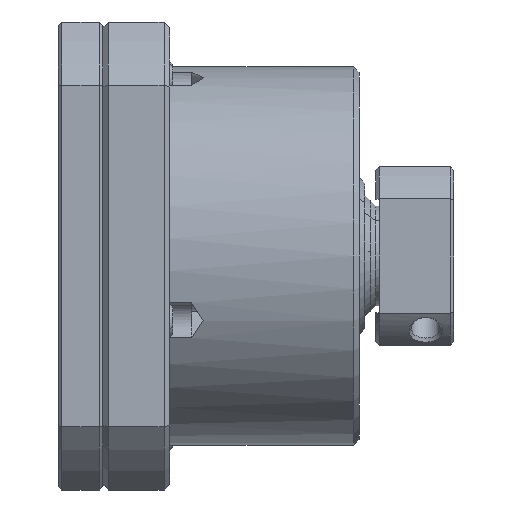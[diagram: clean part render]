
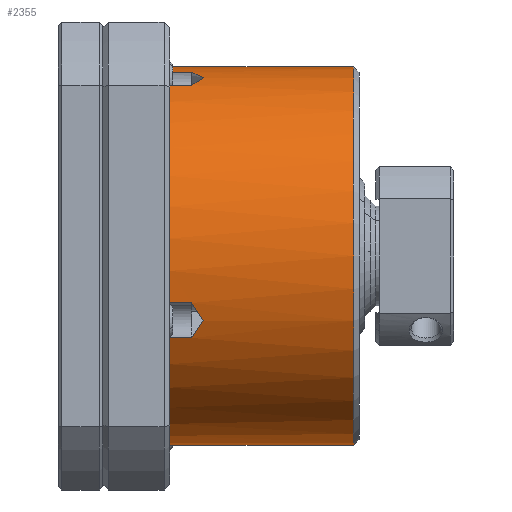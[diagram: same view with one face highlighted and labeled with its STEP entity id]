
A CAD part, front view. The second image highlights one B-rep face of the part: STEP entity #2355.
In plain terms, the highlighted cylindrical face has radius 17 mm (diameter 34 mm), a partial arc.
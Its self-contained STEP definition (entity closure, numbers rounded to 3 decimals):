
#154 = VERTEX_POINT ( 'NONE', #4869 ) ;
#188 = VECTOR ( 'NONE', #7120, 1000. ) ;
#787 = AXIS2_PLACEMENT_3D ( 'NONE', #7371, #6890, #2926 ) ;
#904 = DIRECTION ( 'NONE',  ( 1., 0., 0. ) ) ;
#906 = EDGE_CURVE ( 'NONE', #4085, #8130, #1960, .T. ) ;
#928 = CARTESIAN_POINT ( 'NONE',  ( 8., -7.358, 15.325 ) ) ;
#1058 = CARTESIAN_POINT ( 'NONE',  ( 6., -16.469, -4.214 ) ) ;
#1094 = CARTESIAN_POINT ( 'NONE',  ( 4., -16.469, -4.214 ) ) ;
#1107 = FACE_OUTER_BOUND ( 'NONE', #3990, .T. ) ;
#1199 = ORIENTED_EDGE ( 'NONE', *, *, #5737, .T. ) ;
#1313 = CARTESIAN_POINT ( 'NONE',  ( 8., -16.469, -4.214 ) ) ;
#1355 = DIRECTION ( 'NONE',  ( 0., 0., 1. ) ) ;
#1384 = CARTESIAN_POINT ( 'NONE',  ( 6., 0., 0. ) ) ;
#1603 = CARTESIAN_POINT ( 'NONE',  ( 22.5, 0., -17. ) ) ;
#1614 = ORIENTED_EDGE ( 'NONE', *, *, #6716, .T. ) ;
#1660 = VERTEX_POINT ( 'NONE', #1058 ) ;
#1689 = CARTESIAN_POINT ( 'NONE',  ( 8., -7.358, 15.325 ) ) ;
#1709 = CARTESIAN_POINT ( 'NONE',  ( 8.335, -6.855, 15.567 ) ) ;
#1729 = EDGE_CURVE ( 'NONE', #1660, #7073, #3943, .T. ) ;
#1740 = CARTESIAN_POINT ( 'NONE',  ( -3.974, 0., -17. ) ) ;
#1903 = CARTESIAN_POINT ( 'NONE',  ( 6., 0., 0. ) ) ;
#1911 = DIRECTION ( 'NONE',  ( -1., 0., 0. ) ) ;
#1920 = DIRECTION ( 'NONE',  ( 0., 0., 1. ) ) ;
#1960 = LINE ( 'NONE', #7116, #188 ) ;
#1962 = AXIS2_PLACEMENT_3D ( 'NONE', #1384, #4539, #1355 ) ;
#1964 = CARTESIAN_POINT ( 'NONE',  ( 8.671, -6.339, 15.784 ) ) ;
#2023 = ORIENTED_EDGE ( 'NONE', *, *, #2176, .T. ) ;
#2028 = CARTESIAN_POINT ( 'NONE',  ( 8.672, -5.291, 16.165 ) ) ;
#2042 = CARTESIAN_POINT ( 'NONE',  ( 9.006, -5.814, 15.975 ) ) ;
#2082 = EDGE_CURVE ( 'NONE', #154, #5207, #7843, .T. ) ;
#2175 = VECTOR ( 'NONE', #8101, 1000. ) ;
#2176 = EDGE_CURVE ( 'NONE', #6916, #6990, #5118, .T. ) ;
#2334 = CARTESIAN_POINT ( 'NONE',  ( 9.006, -5.814, 15.975 ) ) ;
#2355 = ADVANCED_FACE ( 'NONE', ( #1107 ), #4038, .T. ) ;
#2498 = B_SPLINE_CURVE_WITH_KNOTS ( 'NONE', 3,
 ( #3331, #6945, #2028, #4502 ),
 .UNSPECIFIED., .F., .F.,
 ( 4, 4 ),
 ( 0.002, 0.004 ),
 .UNSPECIFIED. ) ;
#2506 = DIRECTION ( 'NONE',  ( -1., 0., 0. ) ) ;
#2561 = AXIS2_PLACEMENT_3D ( 'NONE', #2727, #2684, #2937 ) ;
#2626 = AXIS2_PLACEMENT_3D ( 'NONE', #1903, #1911, #1920 ) ;
#2660 = ORIENTED_EDGE ( 'NONE', *, *, #2082, .F. ) ;
#2684 = DIRECTION ( 'NONE',  ( -1., 0., 0. ) ) ;
#2727 = CARTESIAN_POINT ( 'NONE',  ( -3.974, 0., 0. ) ) ;
#2780 = EDGE_CURVE ( 'NONE', #6572, #3740, #2498, .T. ) ;
#2824 = CARTESIAN_POINT ( 'NONE',  ( 22.5, 0., 17. ) ) ;
#2843 = VECTOR ( 'NONE', #2506, 1000. ) ;
#2926 = DIRECTION ( 'NONE',  ( 0., 0., 1. ) ) ;
#2937 = DIRECTION ( 'NONE',  ( 0., 0., 1. ) ) ;
#3016 = B_SPLINE_CURVE_WITH_KNOTS ( 'NONE', 3,
 ( #2042, #1964, #1709, #1689 ),
 .UNSPECIFIED., .F., .F.,
 ( 4, 4 ),
 ( 0., 0.002 ),
 .UNSPECIFIED. ) ;
#3182 = CARTESIAN_POINT ( 'NONE',  ( 4., -4.214, 16.469 ) ) ;
#3274 = CARTESIAN_POINT ( 'NONE',  ( 6., -15.325, -7.358 ) ) ;
#3300 = EDGE_CURVE ( 'NONE', #4746, #5207, #6004, .T. ) ;
#3331 = CARTESIAN_POINT ( 'NONE',  ( 8., -4.214, 16.469 ) ) ;
#3445 = EDGE_CURVE ( 'NONE', #5128, #154, #4808, .T. ) ;
#3633 = ORIENTED_EDGE ( 'NONE', *, *, #7643, .T. ) ;
#3740 = VERTEX_POINT ( 'NONE', #2334 ) ;
#3812 = AXIS2_PLACEMENT_3D ( 'NONE', #5679, #5696, #5703 ) ;
#3839 = CARTESIAN_POINT ( 'NONE',  ( 9.006, -15.975, -5.814 ) ) ;
#3943 = CIRCLE ( 'NONE', #2626, 17. ) ;
#3990 = EDGE_LOOP ( 'NONE', ( #5671, #4137, #4349, #6037, #1199, #8003, #8176, #1614, #6829, #3633, #2023, #7388, #4240, #2660 ) ) ;
#4038 = CYLINDRICAL_SURFACE ( 'NONE', #2561, 17. ) ;
#4052 = CARTESIAN_POINT ( 'NONE',  ( 6., 0., 17. ) ) ;
#4085 = VERTEX_POINT ( 'NONE', #2824 ) ;
#4105 = DIRECTION ( 'NONE',  ( -1., 0., 0. ) ) ;
#4137 = ORIENTED_EDGE ( 'NONE', *, *, #4413, .T. ) ;
#4240 = ORIENTED_EDGE ( 'NONE', *, *, #3300, .T. ) ;
#4263 = VECTOR ( 'NONE', #4105, 1000. ) ;
#4349 = ORIENTED_EDGE ( 'NONE', *, *, #906, .T. ) ;
#4413 = EDGE_CURVE ( 'NONE', #5128, #4085, #7956, .T. ) ;
#4502 = CARTESIAN_POINT ( 'NONE',  ( 9.006, -5.814, 15.975 ) ) ;
#4539 = DIRECTION ( 'NONE',  ( -1., 0., 0. ) ) ;
#4663 = LINE ( 'NONE', #6219, #4263 ) ;
#4746 = VERTEX_POINT ( 'NONE', #7813 ) ;
#4808 = LINE ( 'NONE', #1740, #2843 ) ;
#4869 = CARTESIAN_POINT ( 'NONE',  ( 6., 0., -17. ) ) ;
#5013 = LINE ( 'NONE', #1094, #6699 ) ;
#5096 = CARTESIAN_POINT ( 'NONE',  ( 6., -4.214, 16.469 ) ) ;
#5118 = B_SPLINE_CURVE_WITH_KNOTS ( 'NONE', 3,
 ( #1313, #8175, #8013, #3839 ),
 .UNSPECIFIED., .F., .F.,
 ( 4, 4 ),
 ( 0.002, 0.004 ),
 .UNSPECIFIED. ) ;
#5128 = VERTEX_POINT ( 'NONE', #1603 ) ;
#5207 = VERTEX_POINT ( 'NONE', #3274 ) ;
#5496 = LINE ( 'NONE', #3182, #2175 ) ;
#5499 = CIRCLE ( 'NONE', #1962, 17. ) ;
#5671 = ORIENTED_EDGE ( 'NONE', *, *, #3445, .F. ) ;
#5679 = CARTESIAN_POINT ( 'NONE',  ( 6., 0., 0. ) ) ;
#5696 = DIRECTION ( 'NONE',  ( -1., 0., 0. ) ) ;
#5703 = DIRECTION ( 'NONE',  ( 0., 0., 1. ) ) ;
#5737 = EDGE_CURVE ( 'NONE', #6634, #6572, #5496, .T. ) ;
#6004 = LINE ( 'NONE', #6233, #6901 ) ;
#6037 = ORIENTED_EDGE ( 'NONE', *, *, #7891, .F. ) ;
#6114 = CARTESIAN_POINT ( 'NONE',  ( 8., -4.214, 16.469 ) ) ;
#6219 = CARTESIAN_POINT ( 'NONE',  ( 4., -7.358, 15.325 ) ) ;
#6233 = CARTESIAN_POINT ( 'NONE',  ( 4., -15.325, -7.358 ) ) ;
#6561 = EDGE_CURVE ( 'NONE', #6990, #4746, #7949, .T. ) ;
#6572 = VERTEX_POINT ( 'NONE', #6114 ) ;
#6634 = VERTEX_POINT ( 'NONE', #5096 ) ;
#6699 = VECTOR ( 'NONE', #904, 1000. ) ;
#6716 = EDGE_CURVE ( 'NONE', #8313, #7073, #4663, .T. ) ;
#6738 = CARTESIAN_POINT ( 'NONE',  ( 6., -7.358, 15.325 ) ) ;
#6812 = CARTESIAN_POINT ( 'NONE',  ( 8., -15.325, -7.358 ) ) ;
#6829 = ORIENTED_EDGE ( 'NONE', *, *, #1729, .F. ) ;
#6890 = DIRECTION ( 'NONE',  ( -1., 0., 0. ) ) ;
#6901 = VECTOR ( 'NONE', #7214, 1000. ) ;
#6916 = VERTEX_POINT ( 'NONE', #8142 ) ;
#6945 = CARTESIAN_POINT ( 'NONE',  ( 8.335, -4.755, 16.331 ) ) ;
#6990 = VERTEX_POINT ( 'NONE', #7353 ) ;
#7002 = CARTESIAN_POINT ( 'NONE',  ( 9.006, -15.975, -5.814 ) ) ;
#7017 = CARTESIAN_POINT ( 'NONE',  ( 8.335, -15.567, -6.855 ) ) ;
#7046 = CARTESIAN_POINT ( 'NONE',  ( 8.671, -15.784, -6.339 ) ) ;
#7073 = VERTEX_POINT ( 'NONE', #6738 ) ;
#7116 = CARTESIAN_POINT ( 'NONE',  ( -3.974, 0., 17. ) ) ;
#7120 = DIRECTION ( 'NONE',  ( -1., 0., 0. ) ) ;
#7214 = DIRECTION ( 'NONE',  ( -1., 0., 0. ) ) ;
#7353 = CARTESIAN_POINT ( 'NONE',  ( 9.006, -15.975, -5.814 ) ) ;
#7371 = CARTESIAN_POINT ( 'NONE',  ( 22.5, 0., 0. ) ) ;
#7388 = ORIENTED_EDGE ( 'NONE', *, *, #6561, .T. ) ;
#7643 = EDGE_CURVE ( 'NONE', #1660, #6916, #5013, .T. ) ;
#7813 = CARTESIAN_POINT ( 'NONE',  ( 8., -15.325, -7.358 ) ) ;
#7843 = CIRCLE ( 'NONE', #3812, 17. ) ;
#7891 = EDGE_CURVE ( 'NONE', #6634, #8130, #5499, .T. ) ;
#7949 = B_SPLINE_CURVE_WITH_KNOTS ( 'NONE', 3,
 ( #7002, #7046, #7017, #6812 ),
 .UNSPECIFIED., .F., .F.,
 ( 4, 4 ),
 ( 0., 0.002 ),
 .UNSPECIFIED. ) ;
#7956 = CIRCLE ( 'NONE', #787, 17. ) ;
#8003 = ORIENTED_EDGE ( 'NONE', *, *, #2780, .T. ) ;
#8013 = CARTESIAN_POINT ( 'NONE',  ( 8.672, -16.165, -5.291 ) ) ;
#8101 = DIRECTION ( 'NONE',  ( 1., 0., 0. ) ) ;
#8130 = VERTEX_POINT ( 'NONE', #4052 ) ;
#8142 = CARTESIAN_POINT ( 'NONE',  ( 8., -16.469, -4.214 ) ) ;
#8175 = CARTESIAN_POINT ( 'NONE',  ( 8.335, -16.331, -4.755 ) ) ;
#8176 = ORIENTED_EDGE ( 'NONE', *, *, #8252, .T. ) ;
#8252 = EDGE_CURVE ( 'NONE', #3740, #8313, #3016, .T. ) ;
#8313 = VERTEX_POINT ( 'NONE', #928 ) ;
